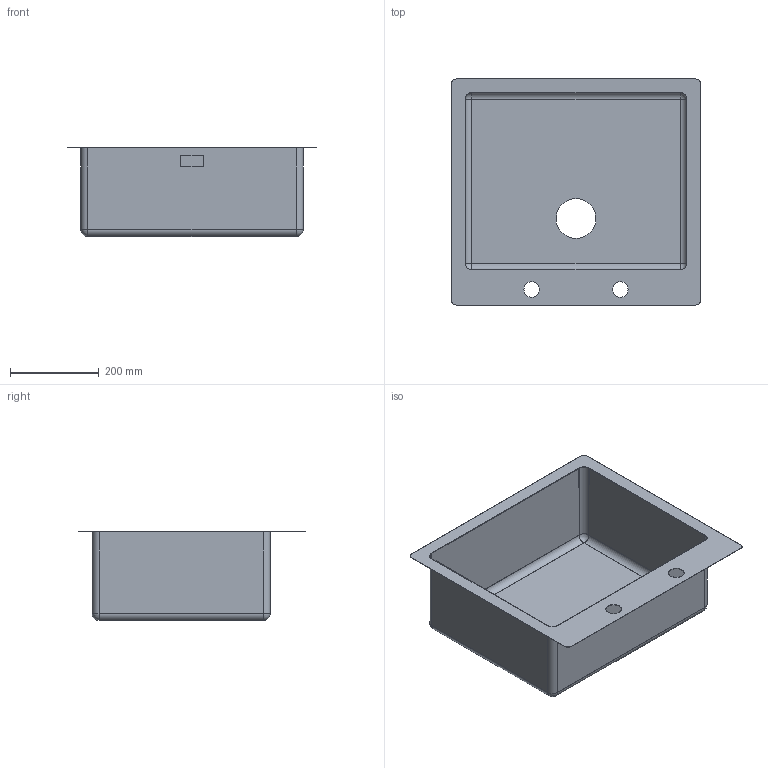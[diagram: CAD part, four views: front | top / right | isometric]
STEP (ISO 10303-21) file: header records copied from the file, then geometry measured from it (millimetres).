
FILE_DESCRIPTION(('CATIA V5 STEP Exchange'),'2;1');
FILE_NAME('C:\Users\linop\Desktop\LFT50RS.stp','2018-05-30T15:48:33+00:00',('none'),('none'),'CATIA Version 5-6 Release 2014','CATIA V5 STEP AP203','none');
FILE_SCHEMA(('CONFIG_CONTROL_DESIGN'));
Length unit declared in the file: millimetre
Products named in the file (1): LFT50RS
Bounding box: 561 x 510 x 200.9 mm (x, y, z)
Volume: 611605.3 mm3; surface area: 1245988.5 mm2
Topology: 2 solids, 2 shells, 63 faces, 158 edges, 92 vertices
Faces by surface type: cylinder 30, plane 25, sphere 8
Entity records: 1796 total; most frequent: CARTESIAN_POINT 303, ORIENTED_EDGE 300, DIRECTION 270, EDGE_CURVE 150, AXIS2_PLACEMENT_3D 121, VERTEX_POINT 92, VECTOR 90, LINE 90
